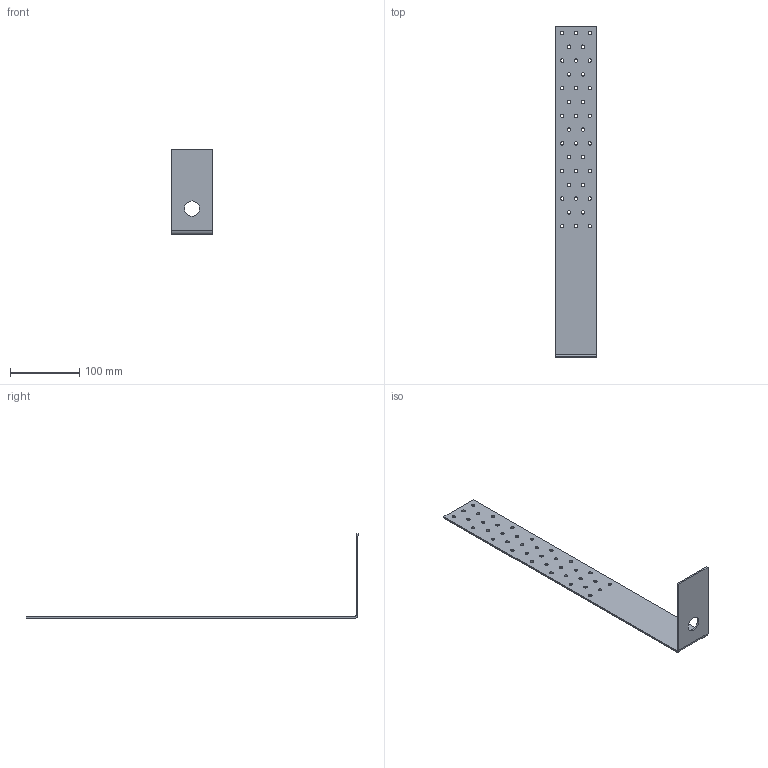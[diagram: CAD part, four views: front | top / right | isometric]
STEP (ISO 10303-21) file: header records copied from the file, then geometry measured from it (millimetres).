
FILE_DESCRIPTION (( 'STEP AP203' ), '1' );
FILE_NAME ('110425.STEP', '2021-03-15T13:22:18', ( '' ), ( '' ), 'SwSTEP 2.0', 'SolidWorks 2013', '' );
FILE_SCHEMA (( 'CONFIG_CONTROL_DESIGN' ));
Length unit declared in the file: millimetre
Products named in the file (1): 110425
Bounding box: 60 x 480.95 x 122.95 mm (x, y, z)
Volume: 87120 mm3; surface area: 74658.9 mm2
Topology: 1 solids, 1 shells, 92 faces, 262 edges, 172 vertices
Faces by surface type: cylinder 80, plane 12
Entity records: 3317 total; most frequent: DIRECTION 608, CARTESIAN_POINT 527, ORIENTED_EDGE 524, EDGE_CURVE 262, AXIS2_PLACEMENT_3D 253, VERTEX_POINT 172, EDGE_LOOP 170, CIRCLE 160
